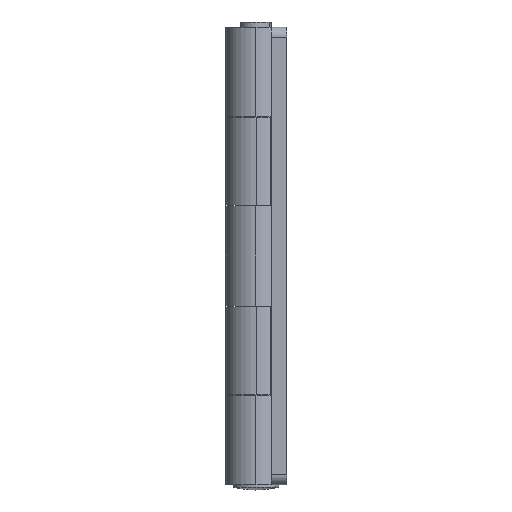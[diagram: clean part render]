
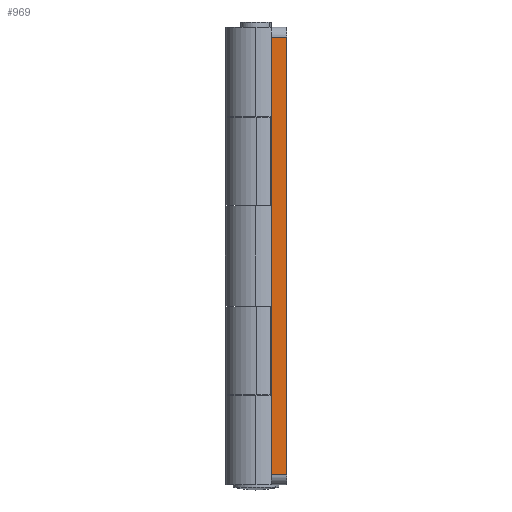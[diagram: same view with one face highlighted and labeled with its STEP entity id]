
A CAD part, left-side view. The second image highlights one B-rep face of the part: STEP entity #969.
In plain terms, the highlighted planar face has unit normal (-1, 0, 0).
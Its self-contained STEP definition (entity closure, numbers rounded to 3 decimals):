
#105 = CARTESIAN_POINT ( 'NONE',  ( -30., -6., 90. ) ) ;
#121 = CARTESIAN_POINT ( 'NONE',  ( -30., -3., 90. ) ) ;
#172 = CARTESIAN_POINT ( 'NONE',  ( -30., -6., 90. ) ) ;
#195 = LINE ( 'NONE', #1295, #2329 ) ;
#277 = VERTEX_POINT ( 'NONE', #2888 ) ;
#378 = VERTEX_POINT ( 'NONE', #2873 ) ;
#472 = DIRECTION ( 'NONE',  ( 0., -1., 0. ) ) ;
#478 = ORIENTED_EDGE ( 'NONE', *, *, #3032, .T. ) ;
#647 = EDGE_CURVE ( 'NONE', #2678, #277, #2123, .T. ) ;
#697 = CARTESIAN_POINT ( 'NONE',  ( -30., -6., 88. ) ) ;
#749 = AXIS2_PLACEMENT_3D ( 'NONE', #105, #2841, #2292 ) ;
#774 = EDGE_CURVE ( 'NONE', #2678, #378, #195, .T. ) ;
#969 = ADVANCED_FACE ( 'NONE', ( #1736 ), #1771, .T. ) ;
#1040 = VECTOR ( 'NONE', #472, 1000. ) ;
#1071 = CARTESIAN_POINT ( 'NONE',  ( -30., -3., 2. ) ) ;
#1215 = DIRECTION ( 'NONE',  ( 0., 0., -1. ) ) ;
#1295 = CARTESIAN_POINT ( 'NONE',  ( -30., -6., 88. ) ) ;
#1300 = EDGE_CURVE ( 'NONE', #378, #2339, #3416, .T. ) ;
#1332 = DIRECTION ( 'NONE',  ( 0., 0., -1. ) ) ;
#1361 = ORIENTED_EDGE ( 'NONE', *, *, #774, .T. ) ;
#1539 = LINE ( 'NONE', #3231, #1040 ) ;
#1736 = FACE_OUTER_BOUND ( 'NONE', #2836, .T. ) ;
#1771 = PLANE ( 'NONE',  #749 ) ;
#2123 = LINE ( 'NONE', #172, #2325 ) ;
#2292 = DIRECTION ( 'NONE',  ( 0., 0., 1. ) ) ;
#2325 = VECTOR ( 'NONE', #1332, 1000. ) ;
#2329 = VECTOR ( 'NONE', #2414, 1000. ) ;
#2339 = VERTEX_POINT ( 'NONE', #1071 ) ;
#2414 = DIRECTION ( 'NONE',  ( 0., 1., 0. ) ) ;
#2632 = ORIENTED_EDGE ( 'NONE', *, *, #1300, .T. ) ;
#2645 = ORIENTED_EDGE ( 'NONE', *, *, #647, .F. ) ;
#2678 = VERTEX_POINT ( 'NONE', #697 ) ;
#2836 = EDGE_LOOP ( 'NONE', ( #2632, #478, #2645, #1361 ) ) ;
#2841 = DIRECTION ( 'NONE',  ( -1., 0., 0. ) ) ;
#2873 = CARTESIAN_POINT ( 'NONE',  ( -30., -3., 88. ) ) ;
#2888 = CARTESIAN_POINT ( 'NONE',  ( -30., -6., 2. ) ) ;
#3032 = EDGE_CURVE ( 'NONE', #2339, #277, #1539, .T. ) ;
#3231 = CARTESIAN_POINT ( 'NONE',  ( -30., -6., 2. ) ) ;
#3416 = LINE ( 'NONE', #121, #3559 ) ;
#3559 = VECTOR ( 'NONE', #1215, 1000. ) ;
